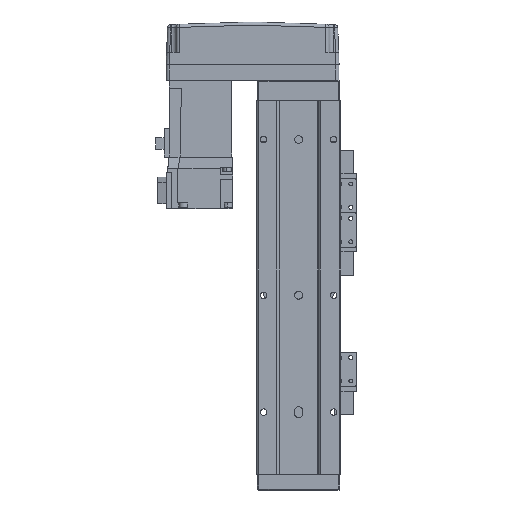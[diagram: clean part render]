
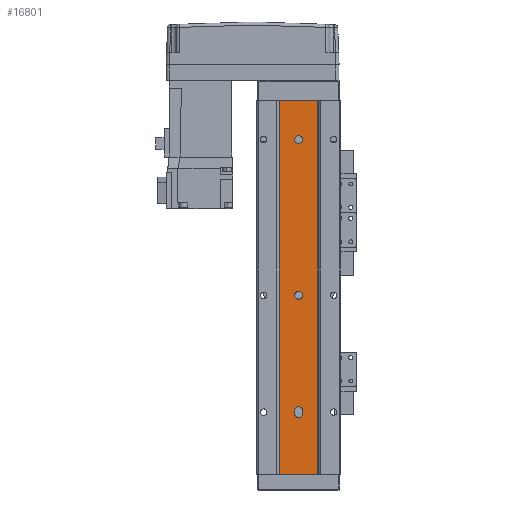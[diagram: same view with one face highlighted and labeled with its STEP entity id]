
A CAD part, front view. The second image highlights one B-rep face of the part: STEP entity #16801.
In plain terms, the highlighted planar face has unit normal (0, -1, 0).
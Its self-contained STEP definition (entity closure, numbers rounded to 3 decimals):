
#163 = CARTESIAN_POINT ( 'NONE',  ( 12.293, 1.5, 0. ) ) ;
#284 = LINE ( 'NONE', #28281, #25542 ) ;
#340 = EDGE_CURVE ( 'NONE', #21520, #3424, #8117, .T. ) ;
#1376 = VECTOR ( 'NONE', #30700, 1000. ) ;
#2136 = AXIS2_PLACEMENT_3D ( 'NONE', #9712, #3907, #26967 ) ;
#2385 = ORIENTED_EDGE ( 'NONE', *, *, #30772, .F. ) ;
#2555 = DIRECTION ( 'NONE',  ( 0., -1., 0. ) ) ;
#3424 = VERTEX_POINT ( 'NONE', #14388 ) ;
#3450 = EDGE_CURVE ( 'NONE', #23824, #22598, #25987, .T. ) ;
#3748 = FACE_OUTER_BOUND ( 'NONE', #5300, .T. ) ;
#3877 = ORIENTED_EDGE ( 'NONE', *, *, #33346, .T. ) ;
#3907 = DIRECTION ( 'NONE',  ( 0., -1., 0. ) ) ;
#4048 = CARTESIAN_POINT ( 'NONE',  ( 12.293, 1.5, -240. ) ) ;
#4096 = LINE ( 'NONE', #21957, #1376 ) ;
#4201 = CARTESIAN_POINT ( 'NONE',  ( 0., 1.5, -25. ) ) ;
#4577 = DIRECTION ( 'NONE',  ( 1., 0., 0. ) ) ;
#4675 = ORIENTED_EDGE ( 'NONE', *, *, #12855, .F. ) ;
#5300 = EDGE_LOOP ( 'NONE', ( #23640, #34683, #3877, #6830 ) ) ;
#5313 = CARTESIAN_POINT ( 'NONE',  ( 0., 1.5, -125. ) ) ;
#5342 = CARTESIAN_POINT ( 'NONE',  ( 0., 1.5, -199. ) ) ;
#5424 = CIRCLE ( 'NONE', #18357, 2.5 ) ;
#6066 = VECTOR ( 'NONE', #4577, 1000. ) ;
#6452 = FACE_BOUND ( 'NONE', #34190, .T. ) ;
#6552 = DIRECTION ( 'NONE',  ( 1., 0., 0. ) ) ;
#6695 = PLANE ( 'NONE',  #17397 ) ;
#6830 = ORIENTED_EDGE ( 'NONE', *, *, #35659, .T. ) ;
#7312 = ORIENTED_EDGE ( 'NONE', *, *, #3450, .F. ) ;
#7789 = AXIS2_PLACEMENT_3D ( 'NONE', #5313, #17265, #19920 ) ;
#8117 = LINE ( 'NONE', #27099, #18481 ) ;
#8242 = CARTESIAN_POINT ( 'NONE',  ( 0., 1.5, -125. ) ) ;
#8281 = VECTOR ( 'NONE', #34061, 1000. ) ;
#8626 = DIRECTION ( 'NONE',  ( 0., -1., 0. ) ) ;
#9105 = AXIS2_PLACEMENT_3D ( 'NONE', #21071, #15148, #35174 ) ;
#9712 = CARTESIAN_POINT ( 'NONE',  ( 0., 1.5, -25. ) ) ;
#10072 = DIRECTION ( 'NONE',  ( 0., 0., -1. ) ) ;
#10404 = VERTEX_POINT ( 'NONE', #24901 ) ;
#10880 = DIRECTION ( 'NONE',  ( 0., 0., 1. ) ) ;
#11542 = EDGE_LOOP ( 'NONE', ( #32089, #2385, #16305, #20950 ) ) ;
#12319 = FACE_BOUND ( 'NONE', #11542, .T. ) ;
#12855 = EDGE_CURVE ( 'NONE', #24596, #18758, #5424, .T. ) ;
#13388 = DIRECTION ( 'NONE',  ( 0., -1., 0. ) ) ;
#13762 = LINE ( 'NONE', #21806, #6066 ) ;
#14388 = CARTESIAN_POINT ( 'NONE',  ( 2.5, 1.5, -199. ) ) ;
#14722 = ORIENTED_EDGE ( 'NONE', *, *, #32115, .F. ) ;
#15148 = DIRECTION ( 'NONE',  ( 0., -1., 0. ) ) ;
#16226 = EDGE_CURVE ( 'NONE', #10404, #21520, #29058, .T. ) ;
#16297 = EDGE_CURVE ( 'NONE', #16501, #29428, #13762, .T. ) ;
#16305 = ORIENTED_EDGE ( 'NONE', *, *, #35753, .F. ) ;
#16501 = VERTEX_POINT ( 'NONE', #25219 ) ;
#16562 = EDGE_CURVE ( 'NONE', #18758, #24596, #20443, .T. ) ;
#16801 = ADVANCED_FACE ( 'NONE', ( #12319, #6452, #31691, #3748 ), #6695, .T. ) ;
#17265 = DIRECTION ( 'NONE',  ( 0., -1., 0. ) ) ;
#17282 = CARTESIAN_POINT ( 'NONE',  ( 2.5, 1.5, -201. ) ) ;
#17397 = AXIS2_PLACEMENT_3D ( 'NONE', #4048, #29870, #6552 ) ;
#18357 = AXIS2_PLACEMENT_3D ( 'NONE', #8242, #2555, #28036 ) ;
#18481 = VECTOR ( 'NONE', #21460, 1000. ) ;
#18567 = CARTESIAN_POINT ( 'NONE',  ( -2.5, 1.5, -199. ) ) ;
#18648 = LINE ( 'NONE', #30939, #8281 ) ;
#18758 = VERTEX_POINT ( 'NONE', #21199 ) ;
#18898 = VERTEX_POINT ( 'NONE', #18567 ) ;
#19158 = CARTESIAN_POINT ( 'NONE',  ( 12.293, 1.5, -240. ) ) ;
#19604 = CIRCLE ( 'NONE', #35621, 2.5 ) ;
#19723 = EDGE_LOOP ( 'NONE', ( #14722, #7312 ) ) ;
#19920 = DIRECTION ( 'NONE',  ( 1., 0., 0. ) ) ;
#20443 = CIRCLE ( 'NONE', #7789, 2.5 ) ;
#20950 = ORIENTED_EDGE ( 'NONE', *, *, #340, .F. ) ;
#21071 = CARTESIAN_POINT ( 'NONE',  ( 0., 1.5, -201. ) ) ;
#21199 = CARTESIAN_POINT ( 'NONE',  ( -2.5, 1.5, -125. ) ) ;
#21460 = DIRECTION ( 'NONE',  ( 0., 0., 1. ) ) ;
#21520 = VERTEX_POINT ( 'NONE', #17282 ) ;
#21806 = CARTESIAN_POINT ( 'NONE',  ( 12.293, 1.5, 0. ) ) ;
#21957 = CARTESIAN_POINT ( 'NONE',  ( 12.293, 1.5, -240. ) ) ;
#22598 = VERTEX_POINT ( 'NONE', #36374 ) ;
#23259 = CARTESIAN_POINT ( 'NONE',  ( -12.293, 1.5, -240. ) ) ;
#23640 = ORIENTED_EDGE ( 'NONE', *, *, #16297, .F. ) ;
#23824 = VERTEX_POINT ( 'NONE', #33997 ) ;
#24228 = VECTOR ( 'NONE', #10072, 1000. ) ;
#24596 = VERTEX_POINT ( 'NONE', #28425 ) ;
#24779 = CARTESIAN_POINT ( 'NONE',  ( -2.5, 1.5, -240. ) ) ;
#24901 = CARTESIAN_POINT ( 'NONE',  ( -2.5, 1.5, -201. ) ) ;
#25219 = CARTESIAN_POINT ( 'NONE',  ( -12.293, 1.5, 0. ) ) ;
#25542 = VECTOR ( 'NONE', #10880, 1000. ) ;
#25987 = CIRCLE ( 'NONE', #2136, 2.5 ) ;
#26967 = DIRECTION ( 'NONE',  ( 1., 0., 0. ) ) ;
#27099 = CARTESIAN_POINT ( 'NONE',  ( 2.5, 1.5, -240. ) ) ;
#28036 = DIRECTION ( 'NONE',  ( 1., 0., 0. ) ) ;
#28281 = CARTESIAN_POINT ( 'NONE',  ( -12.293, 1.5, -240. ) ) ;
#28425 = CARTESIAN_POINT ( 'NONE',  ( 2.5, 1.5, -125. ) ) ;
#28863 = VERTEX_POINT ( 'NONE', #23259 ) ;
#29058 = CIRCLE ( 'NONE', #9105, 2.5 ) ;
#29428 = VERTEX_POINT ( 'NONE', #163 ) ;
#29438 = CIRCLE ( 'NONE', #32640, 2.5 ) ;
#29870 = DIRECTION ( 'NONE',  ( 0., -1., 0. ) ) ;
#30700 = DIRECTION ( 'NONE',  ( 1., 0., 0. ) ) ;
#30772 = EDGE_CURVE ( 'NONE', #18898, #10404, #35507, .T. ) ;
#30939 = CARTESIAN_POINT ( 'NONE',  ( 12.293, 1.5, -240. ) ) ;
#31691 = FACE_BOUND ( 'NONE', #19723, .T. ) ;
#32089 = ORIENTED_EDGE ( 'NONE', *, *, #16226, .F. ) ;
#32115 = EDGE_CURVE ( 'NONE', #22598, #23824, #19604, .T. ) ;
#32640 = AXIS2_PLACEMENT_3D ( 'NONE', #5342, #8626, #34420 ) ;
#33346 = EDGE_CURVE ( 'NONE', #28863, #34054, #4096, .T. ) ;
#33540 = DIRECTION ( 'NONE',  ( 1., 0., 0. ) ) ;
#33997 = CARTESIAN_POINT ( 'NONE',  ( -2.5, 1.5, -25. ) ) ;
#34054 = VERTEX_POINT ( 'NONE', #19158 ) ;
#34061 = DIRECTION ( 'NONE',  ( 0., 0., 1. ) ) ;
#34190 = EDGE_LOOP ( 'NONE', ( #4675, #34561 ) ) ;
#34420 = DIRECTION ( 'NONE',  ( 1., 0., 0. ) ) ;
#34561 = ORIENTED_EDGE ( 'NONE', *, *, #16562, .F. ) ;
#34683 = ORIENTED_EDGE ( 'NONE', *, *, #37382, .F. ) ;
#35174 = DIRECTION ( 'NONE',  ( 1., 0., 0. ) ) ;
#35507 = LINE ( 'NONE', #24779, #24228 ) ;
#35621 = AXIS2_PLACEMENT_3D ( 'NONE', #4201, #13388, #33540 ) ;
#35659 = EDGE_CURVE ( 'NONE', #34054, #29428, #18648, .T. ) ;
#35753 = EDGE_CURVE ( 'NONE', #3424, #18898, #29438, .T. ) ;
#36374 = CARTESIAN_POINT ( 'NONE',  ( 2.5, 1.5, -25. ) ) ;
#37382 = EDGE_CURVE ( 'NONE', #28863, #16501, #284, .T. ) ;
